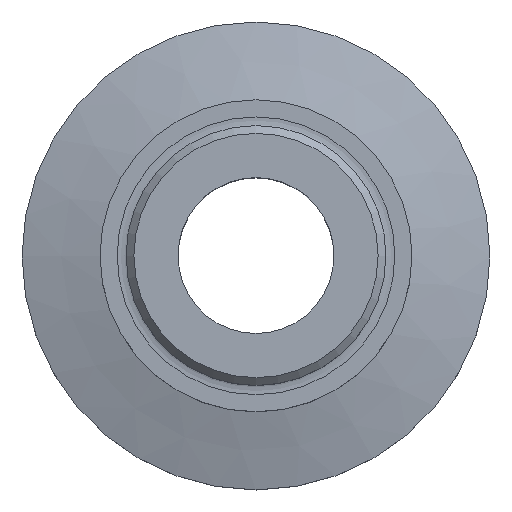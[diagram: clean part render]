
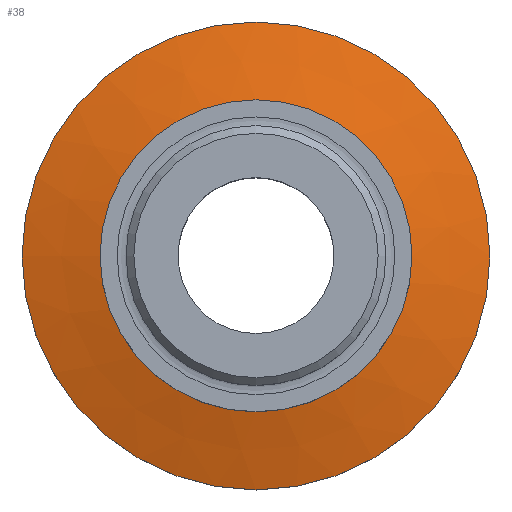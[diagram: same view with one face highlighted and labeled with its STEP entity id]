
A CAD part, top view. The second image highlights one B-rep face of the part: STEP entity #38.
In plain terms, the highlighted conical face has half-angle 75 degrees and reference radius 15 mm.
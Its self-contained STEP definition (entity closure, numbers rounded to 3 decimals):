
#38 = ADVANCED_FACE( '', ( #81, #82 ), #83, .T. );
#81 = FACE_BOUND( '', #136, .T. );
#82 = FACE_OUTER_BOUND( '', #137, .T. );
#83 = CONICAL_SURFACE( '', #138, 15., 1.309 );
#136 = EDGE_LOOP( '', ( #187 ) );
#137 = EDGE_LOOP( '', ( #188 ) );
#138 = AXIS2_PLACEMENT_3D( '', #189, #190, #191 );
#187 = ORIENTED_EDGE( '', *, *, #256, .T. );
#188 = ORIENTED_EDGE( '', *, *, #253, .F. );
#189 = CARTESIAN_POINT( '', ( 0., 0., 3. ) );
#190 = DIRECTION( '', ( 0., 0., -1. ) );
#191 = DIRECTION( '', ( -1., 0., 0. ) );
#253 = EDGE_CURVE( '', #277, #277, #278, .T. );
#256 = EDGE_CURVE( '', #282, #282, #283, .T. );
#277 = VERTEX_POINT( '', #313 );
#278 = CIRCLE( '', #314, 15. );
#282 = VERTEX_POINT( '', #318 );
#283 = CIRCLE( '', #319, 10. );
#313 = CARTESIAN_POINT( '', ( -15., 0., 3. ) );
#314 = AXIS2_PLACEMENT_3D( '', #348, #349, #350 );
#318 = CARTESIAN_POINT( '', ( -10., 0., 4.34 ) );
#319 = AXIS2_PLACEMENT_3D( '', #354, #355, #356 );
#348 = CARTESIAN_POINT( '', ( 0., 0., 3. ) );
#349 = DIRECTION( '', ( 0., 0., -1. ) );
#350 = DIRECTION( '', ( -1., 0., 0. ) );
#354 = CARTESIAN_POINT( '', ( 0., 0., 4.34 ) );
#355 = DIRECTION( '', ( 0., 0., -1. ) );
#356 = DIRECTION( '', ( -1., 0., 0. ) );
